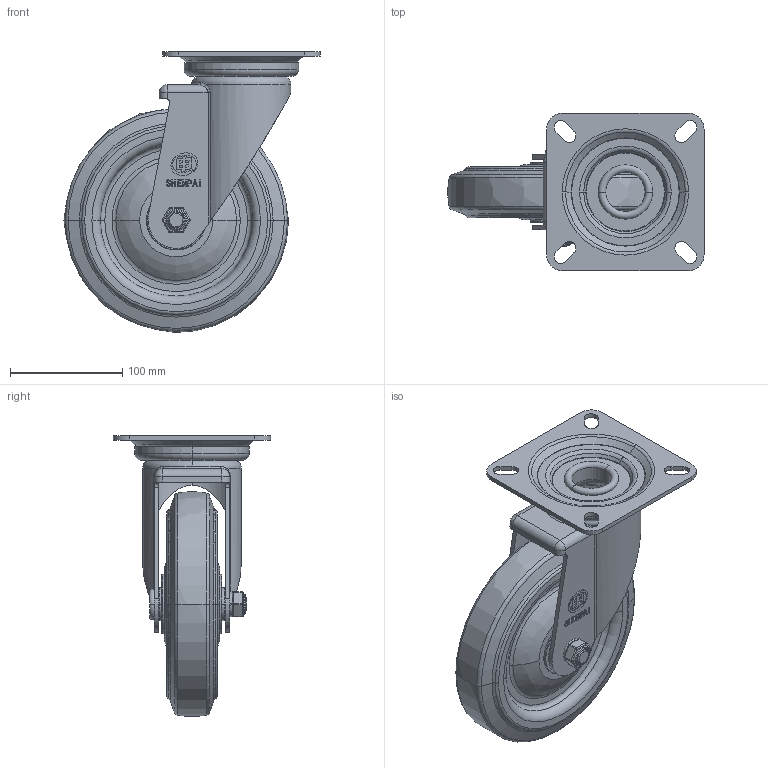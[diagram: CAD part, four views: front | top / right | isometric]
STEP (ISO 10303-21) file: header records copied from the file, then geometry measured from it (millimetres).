
FILE_DESCRIPTION(/* description */ (''),/* implementation_level */ '2;1');
FILE_NAME(/* name */ '25A37_8_F.stp',/* time_stamp */ '2022-08-27T13:39:00+08:00',/* author */ (''),/* organization */ (''),/* preprocessor_version */ 'ST-DEVELOPER v14',/* originating_system */ 'SIEMENS PLM Software NX 8.0',/* authorisation */ '');
FILE_SCHEMA (('AUTOMOTIVE_DESIGN { 1 0 10303 214 3 1 1 1 }'));
Length unit declared in the file: millimetre
Products named in the file (1): 25A37_8_F
Bounding box: 227.87 x 140 x 249.89 mm (x, y, z)
Volume: 778175.8 mm3; surface area: 310266.6 mm2
Topology: 1 solids, 5 shells, 858 faces, 2555 edges, 1584 vertices
Faces by surface type: plane 355, sphere 166, cylinder 144, torus 136, cone 38, bspline 18, extrusion 1
Full cylindrical faces by diameter (mm): 14 x1
Entity records: 30962 total; most frequent: CARTESIAN_POINT 8894, ORIENTED_EDGE 4778, DIRECTION 4682, EDGE_CURVE 2389, AXIS2_PLACEMENT_3D 2029, VERTEX_POINT 1584, CIRCLE 1185, EDGE_LOOP 931
